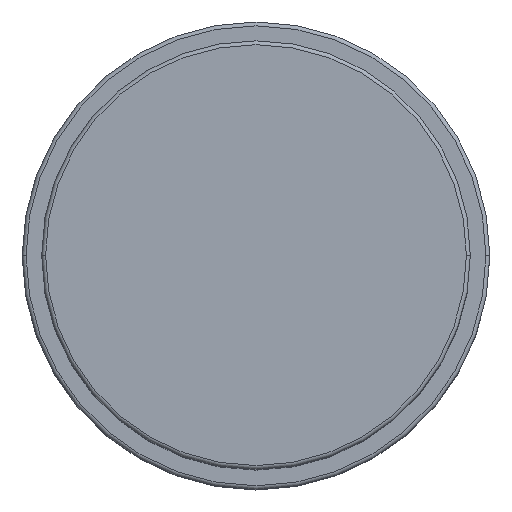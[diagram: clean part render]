
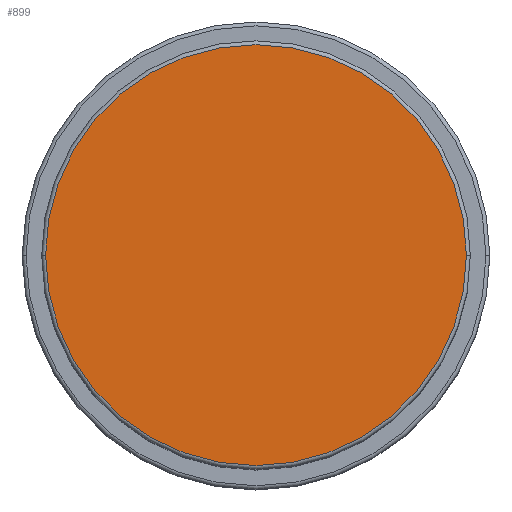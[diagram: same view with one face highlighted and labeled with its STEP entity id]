
A CAD part, top view. The second image highlights one B-rep face of the part: STEP entity #899.
In plain terms, the highlighted planar face has unit normal (0, 0, 1).
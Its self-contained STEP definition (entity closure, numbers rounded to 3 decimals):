
#97 = AXIS2_PLACEMENT_3D ( 'NONE', #1970, #1548, #1580 ) ;
#401 = CIRCLE ( 'NONE', #1813, 27. ) ;
#899 = ADVANCED_FACE ( 'NONE', ( #3126 ), #4832, .T. ) ;
#1515 = DIRECTION ( 'NONE',  ( 0., 0., 1. ) ) ;
#1548 = DIRECTION ( 'NONE',  ( 0., 0., 1. ) ) ;
#1580 = DIRECTION ( 'NONE',  ( 1., 0., 0. ) ) ;
#1642 = EDGE_CURVE ( 'NONE', #2079, #4857, #401, .T. ) ;
#1813 = AXIS2_PLACEMENT_3D ( 'NONE', #1897, #1515, #4562 ) ;
#1897 = CARTESIAN_POINT ( 'NONE',  ( 0., 0., 76. ) ) ;
#1970 = CARTESIAN_POINT ( 'NONE',  ( 0., 0., 76. ) ) ;
#2079 = VERTEX_POINT ( 'NONE', #2988 ) ;
#2276 = EDGE_LOOP ( 'NONE', ( #2339, #3521 ) ) ;
#2339 = ORIENTED_EDGE ( 'NONE', *, *, #4412, .T. ) ;
#2504 = AXIS2_PLACEMENT_3D ( 'NONE', #4425, #4411, #2912 ) ;
#2912 = DIRECTION ( 'NONE',  ( 1., 0., 0. ) ) ;
#2988 = CARTESIAN_POINT ( 'NONE',  ( -27., 0., 76. ) ) ;
#3126 = FACE_OUTER_BOUND ( 'NONE', #2276, .T. ) ;
#3521 = ORIENTED_EDGE ( 'NONE', *, *, #1642, .T. ) ;
#4143 = CIRCLE ( 'NONE', #97, 27. ) ;
#4411 = DIRECTION ( 'NONE',  ( 0., 0., 1. ) ) ;
#4412 = EDGE_CURVE ( 'NONE', #4857, #2079, #4143, .T. ) ;
#4425 = CARTESIAN_POINT ( 'NONE',  ( 0., 0., 76. ) ) ;
#4562 = DIRECTION ( 'NONE',  ( 1., 0., 0. ) ) ;
#4804 = CARTESIAN_POINT ( 'NONE',  ( 27., 0., 76. ) ) ;
#4832 = PLANE ( 'NONE',  #2504 ) ;
#4857 = VERTEX_POINT ( 'NONE', #4804 ) ;
